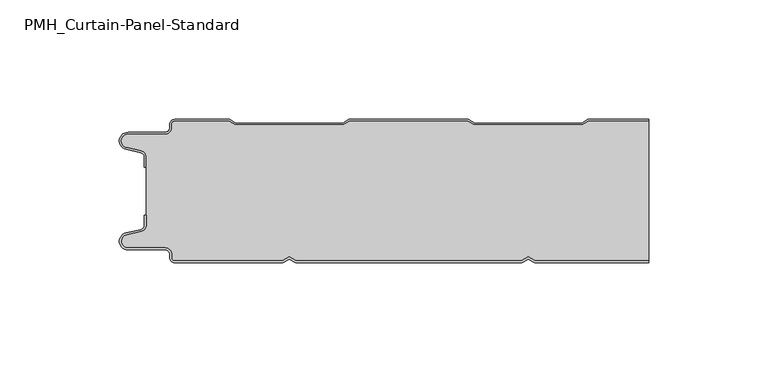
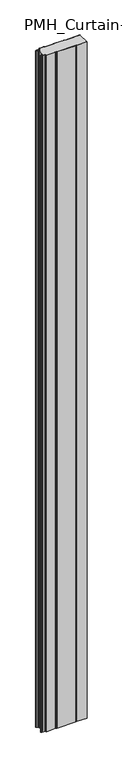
"""IFC4 building model written with IfcOpenShell, lengths in millimetres: plate geometry, PMH_Curtain-Panel-Standard : ACH_PMH_Acoustic-Sectioning-Panel_60M."""

from ifc_helpers import new_model, si_unit, point, frame_2d, origin, origin_with_axes, place, context, project, spatial, polyline, circle_curve, trimmed, segment, composite_curve, outline, extrude, source, transform, mapped, element, save


def pmh_curtain_panel_standard_b3cdcdb4(model_context):
    return source(origin(), model_context, "Body", "SweptSolid", [
        extrude(outline(composite_curve([segment(polyline([(-100.0, 15.878557), (-100.0, 20.0), (-99.2, 20.0), (-99.2, 15.878557)]), True, "CONTINUOUS"), segment(trimmed(circle_curve(frame_2d((-102.0, 15.878557)), 2.8), [point((-99.2, 15.878557))], [point((-101.370137, 13.1503208))], False, "CARTESIAN"), True, "CONTINUOUS"), segment(polyline([(-101.370137, 13.1503208), (-107.529863, 11.728236)]), True, "CONTINUOUS"), segment(trimmed(circle_curve(frame_2d((-106.9, 9.0)), 2.8), [point((-107.529863, 11.728236))], [point((-106.9, 6.2))], True, "CARTESIAN"), True, "CONTINUOUS"), segment(polyline([(-106.9, 6.2), (-91.4, 6.2)]), True, "CONTINUOUS"), segment(trimmed(circle_curve(frame_2d((-91.4, 3.4)), 2.8), [point((-91.4, 6.2))], [point((-88.6, 3.4))], False, "CARTESIAN"), True, "CONTINUOUS"), segment(polyline([(-88.6, 3.4), (-88.6, 2.0)]), True, "CONTINUOUS"), segment(trimmed(circle_curve(frame_2d((-87.4, 2.0)), 1.2), [point((-88.6, 2.0))], [point((-87.4, 0.8))], True, "CARTESIAN"), True, "CONTINUOUS"), segment(polyline([(-87.4, 0.8), (-42.3143588, 0.8), (-39.4, 2.482606), (-36.4856412, 0.8), (57.6856412, 0.8), (60.6, 2.482606), (63.5143588, 0.8), (111.0, 0.8), (111.0, 0.0), (63.2999995, 0.0), (60.6, 1.5588455), (57.9000005, 0.0), (-36.7000005, 0.0), (-39.4, 1.5588455), (-42.0999995, 0.0), (-87.4, 0.0)]), True, "CONTINUOUS"), segment(trimmed(circle_curve(frame_2d((-87.4, 2.0)), 2.0), [point((-87.4, 0.0))], [point((-89.4, 2.0))], False, "CARTESIAN"), True, "CONTINUOUS"), segment(polyline([(-89.4, 2.0), (-89.4, 3.4)]), True, "CONTINUOUS"), segment(trimmed(circle_curve(frame_2d((-91.4, 3.4)), 2.0), [point((-89.4, 3.4))], [point((-91.4, 5.4))], True, "CARTESIAN"), True, "CONTINUOUS"), segment(polyline([(-91.4, 5.4), (-106.9, 5.4)]), True, "CONTINUOUS"), segment(trimmed(circle_curve(frame_2d((-106.9, 9.0)), 3.6), [point((-106.9, 5.4))], [point((-107.7098239, 12.5077322))], False, "CARTESIAN"), True, "CONTINUOUS"), segment(polyline([(-107.7098239, 12.5077322), (-101.5500979, 13.929817)]), True, "CONTINUOUS"), segment(trimmed(circle_curve(frame_2d((-102.0, 15.878557)), 2.0), [point((-101.5500979, 13.929817))], [point((-100.0, 15.878557))], True, "CARTESIAN"), True, "CONTINUOUS")], self_intersect=False)), origin_with_axes(), (0.0, 0.0, 1.0), 3500.0),
        extrude(outline(composite_curve([segment(trimmed(circle_curve(frame_2d((-102.0, 44.121443)), 2.8), [point((-99.2, 44.121443))], [point((-101.370137, 46.8496792))], True, "CARTESIAN"), True, "CONTINUOUS"), segment(polyline([(-101.370137, 46.8496792), (-107.529863, 48.271764)]), True, "CONTINUOUS"), segment(trimmed(circle_curve(frame_2d((-106.9, 51.0)), 2.7999998), [point((-107.529863, 48.271764))], [point((-106.9, 53.7999998))], False, "CARTESIAN"), True, "CONTINUOUS"), segment(polyline([(-106.9, 53.7999998), (-91.4, 53.7999998)]), True, "CONTINUOUS"), segment(trimmed(circle_curve(frame_2d((-91.4, 56.5999998)), 2.8), [point((-91.4, 53.7999998))], [point((-88.6, 56.5999998))], True, "CARTESIAN"), True, "CONTINUOUS"), segment(polyline([(-88.6, 56.5999998), (-88.6, 58.0)]), True, "CONTINUOUS"), segment(trimmed(circle_curve(frame_2d((-87.4, 58.0)), 1.2), [point((-88.6, 58.0))], [point((-87.4, 59.2))], False, "CARTESIAN"), True, "CONTINUOUS"), segment(polyline([(-87.4, 59.2), (-64.6143592, 59.2), (-62.0162816, 57.7), (-16.7875654, 57.7), (-14.1894878, 59.2), (35.3856408, 59.2), (37.9837184, 57.7), (83.2124346, 57.7), (85.8105122, 59.2), (111.0, 59.2), (111.0, 0.8), (63.5143588, 0.8), (60.5999999, 2.482606), (57.6856411, 0.8), (-36.4856412, 0.8), (-39.4000001, 2.482606), (-42.3143589, 0.8), (-87.4000001, 0.8)]), True, "CONTINUOUS"), segment(trimmed(circle_curve(frame_2d((-87.4000001, 2.0)), 1.2), [point((-87.4000001, 0.8))], [point((-88.6000001, 2.0))], False, "CARTESIAN"), True, "CONTINUOUS"), segment(polyline([(-88.6000001, 2.0), (-88.6000001, 3.4)]), True, "CONTINUOUS"), segment(trimmed(circle_curve(frame_2d((-91.4000001, 3.4)), 2.8), [point((-88.6000001, 3.4))], [point((-91.4000001, 6.2))], True, "CARTESIAN"), True, "CONTINUOUS"), segment(polyline([(-91.4000001, 6.2), (-106.9, 6.2)]), True, "CONTINUOUS"), segment(trimmed(circle_curve(frame_2d((-106.9, 9.0)), 2.8), [point((-106.9, 6.2))], [point((-107.5298631, 11.7282362))], False, "CARTESIAN"), True, "CONTINUOUS"), segment(polyline([(-107.5298631, 11.7282362), (-101.370137, 13.1503212)]), True, "CONTINUOUS"), segment(trimmed(circle_curve(frame_2d((-102.0, 15.8785573)), 2.8), [point((-101.370137, 13.1503212))], [point((-99.2, 15.8785573))], True, "CARTESIAN"), True, "CONTINUOUS"), segment(polyline([(-99.2, 15.8785573), (-99.2, 44.121443)]), True, "CONTINUOUS")], self_intersect=False)), origin_with_axes(), (0.0, 0.0, 1.0), 3500.0),
        extrude(outline(composite_curve([segment(polyline([(-87.4, 60.0), (-64.3999999, 60.0), (-61.8019223, 58.5), (-17.0019247, 58.5), (-14.4038471, 60.0), (35.6000001, 60.0), (38.1980777, 58.5), (82.9980753, 58.5), (85.5961529, 60.0), (111.0, 60.0), (111.0, 59.2), (85.8105122, 59.2), (83.2124346, 57.7), (37.9837184, 57.7), (35.3856408, 59.2), (-14.1894878, 59.2), (-16.7875654, 57.7), (-62.0162816, 57.7), (-64.6143592, 59.2), (-87.4, 59.2)]), True, "CONTINUOUS"), segment(trimmed(circle_curve(frame_2d((-87.4, 58.0)), 1.2), [point((-87.4, 59.2))], [point((-88.6, 58.0))], True, "CARTESIAN"), True, "CONTINUOUS"), segment(polyline([(-88.6, 58.0), (-88.6, 56.6)]), True, "CONTINUOUS"), segment(trimmed(circle_curve(frame_2d((-91.4, 56.6)), 2.8), [point((-88.6, 56.6))], [point((-91.4, 53.8))], False, "CARTESIAN"), True, "CONTINUOUS"), segment(polyline([(-91.4, 53.8), (-106.9, 53.8)]), True, "CONTINUOUS"), segment(trimmed(circle_curve(frame_2d((-106.9, 51.0)), 2.8), [point((-106.9, 53.8))], [point((-107.529863, 48.2717638))], True, "CARTESIAN"), True, "CONTINUOUS"), segment(polyline([(-107.529863, 48.2717638), (-101.370137, 46.849679)]), True, "CONTINUOUS"), segment(trimmed(circle_curve(frame_2d((-102.0, 44.121443)), 2.8), [point((-101.370137, 46.849679))], [point((-99.2, 44.121443))], False, "CARTESIAN"), True, "CONTINUOUS"), segment(polyline([(-99.2, 44.121443), (-99.2, 40.0), (-100.0, 40.0), (-100.0, 44.121443)]), True, "CONTINUOUS"), segment(trimmed(circle_curve(frame_2d((-102.0, 44.121443)), 2.0), [point((-100.0, 44.121443))], [point((-101.5500978, 46.0701831))], True, "CARTESIAN"), True, "CONTINUOUS"), segment(polyline([(-101.5500978, 46.0701831), (-107.7098239, 47.492268)]), True, "CONTINUOUS"), segment(trimmed(circle_curve(frame_2d((-106.9, 51.0)), 3.6), [point((-107.7098239, 47.492268))], [point((-106.9, 54.6))], False, "CARTESIAN"), True, "CONTINUOUS"), segment(polyline([(-106.9, 54.6), (-91.4, 54.6)]), True, "CONTINUOUS"), segment(trimmed(circle_curve(frame_2d((-91.4, 56.6)), 2.0), [point((-91.4, 54.6))], [point((-89.4, 56.6))], True, "CARTESIAN"), True, "CONTINUOUS"), segment(polyline([(-89.4, 56.6), (-89.4, 58.0)]), True, "CONTINUOUS"), segment(trimmed(circle_curve(frame_2d((-87.4, 58.0)), 2.0), [point((-89.4, 58.0))], [point((-87.4, 60.0))], False, "CARTESIAN"), True, "CONTINUOUS")], self_intersect=False)), origin_with_axes(), (0.0, 0.0, 1.0), 3500.0),
    ])


if __name__ == "__main__":
    model = new_model("IFC4")
    model_context = context("Model", 3, world=origin())
    ifc_project = project(units=[si_unit("LENGTHUNIT", "METRE", prefix="MILLI")], contexts=[model_context])
    site = spatial("IfcSite", under=ifc_project)
    building = spatial("IfcBuilding", under=site)
    placement = place(None, origin())
    pmh_curtain_panel_standard_shape = pmh_curtain_panel_standard_b3cdcdb4(model_context)
    element("IfcPlate", 1, ObjectType="PMH_Curtain-Panel-Standard : ACH_PMH_Acoustic-Sectioning-Panel_60M", at=placement, inside=building, context=model_context, shape_type="MappedRepresentation", body=[
        mapped(pmh_curtain_panel_standard_shape, transform((0.0, 0.0, 0.0), x_axis=(1.0, 0.0, 0.0), y_axis=(0.0, 1.0, 0.0), z_axis=(0.0, 0.0, 1.0))),
    ])
    save(model, "model.ifc")
